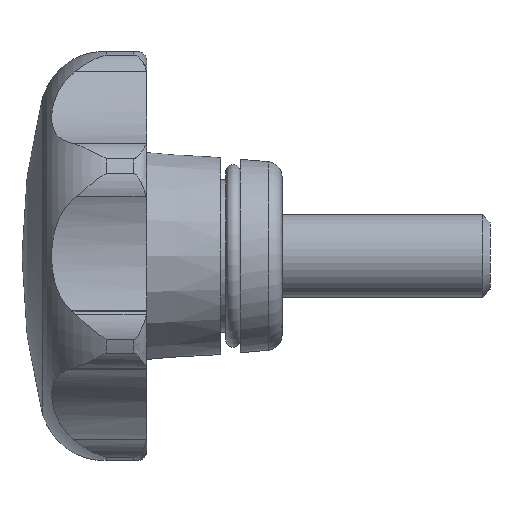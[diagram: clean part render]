
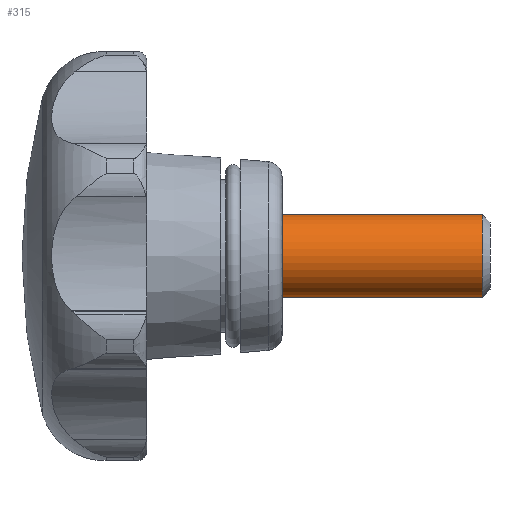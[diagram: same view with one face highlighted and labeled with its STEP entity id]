
A CAD part, left-side view. The second image highlights one B-rep face of the part: STEP entity #315.
In plain terms, the highlighted cylindrical face has radius 4 mm (diameter 8 mm), a full revolution.
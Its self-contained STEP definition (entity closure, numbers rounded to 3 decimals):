
#315 = ADVANCED_FACE( '', ( #688, #689 ), #690, .T. );
#688 = FACE_OUTER_BOUND( '', #1112, .T. );
#689 = FACE_OUTER_BOUND( '', #1113, .T. );
#690 = CYLINDRICAL_SURFACE( '', #1114, 4. );
#1112 = EDGE_LOOP( '', ( #2391 ) );
#1113 = EDGE_LOOP( '', ( #2392 ) );
#1114 = AXIS2_PLACEMENT_3D( '', #2393, #2394, #2395 );
#2391 = ORIENTED_EDGE( '', *, *, #3065, .F. );
#2392 = ORIENTED_EDGE( '', *, *, #2968, .T. );
#2393 = CARTESIAN_POINT( '', ( 0., -20., 0. ) );
#2394 = DIRECTION( '', ( 0., 1., 0. ) );
#2395 = DIRECTION( '', ( 0., 0., -1. ) );
#2968 = EDGE_CURVE( '', #3671, #3671, #3672, .T. );
#3065 = EDGE_CURVE( '', #3790, #3790, #3791, .T. );
#3671 = VERTEX_POINT( '', #5474 );
#3672 = CIRCLE( '', #5475, 4. );
#3790 = VERTEX_POINT( '', #5667 );
#3791 = CIRCLE( '', #5668, 4. );
#5474 = CARTESIAN_POINT( '', ( 0., 0., -4. ) );
#5475 = AXIS2_PLACEMENT_3D( '', #6260, #6261, #6262 );
#5667 = CARTESIAN_POINT( '', ( 0., -19.233, -4. ) );
#5668 = AXIS2_PLACEMENT_3D( '', #6464, #6465, #6466 );
#6260 = CARTESIAN_POINT( '', ( 0., 0., 0. ) );
#6261 = DIRECTION( '', ( 0., -1., 0. ) );
#6262 = DIRECTION( '', ( 0., 0., -1. ) );
#6464 = CARTESIAN_POINT( '', ( 0., -19.233, 0. ) );
#6465 = DIRECTION( '', ( 0., -1., 0. ) );
#6466 = DIRECTION( '', ( 0., 0., -1. ) );
